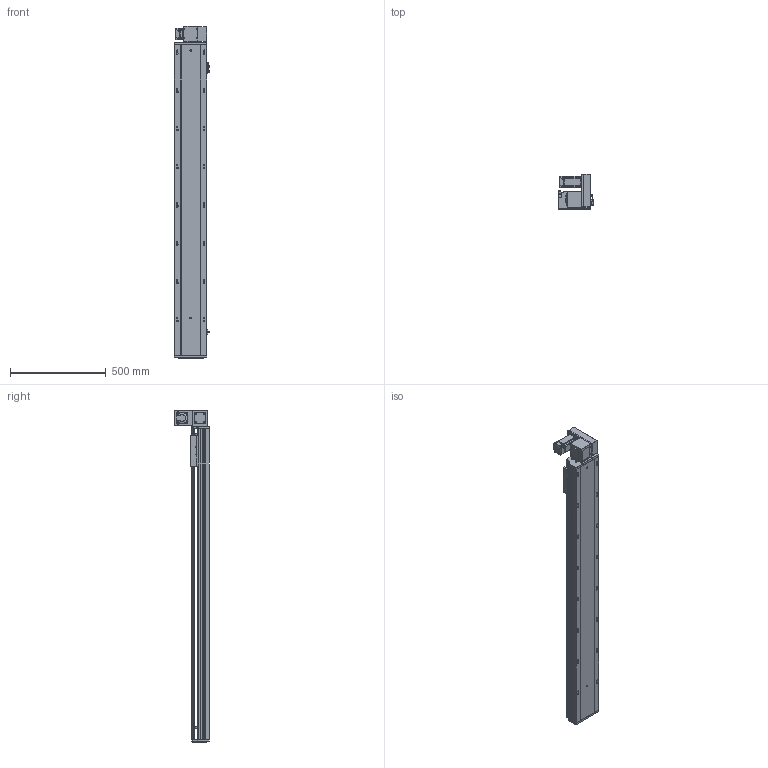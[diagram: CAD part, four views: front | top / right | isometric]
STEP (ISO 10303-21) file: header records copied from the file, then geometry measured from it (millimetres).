
FILE_DESCRIPTION (( 'STEP AP203' ), '1' );
FILE_NAME ('RY170-T-300-UR-P400W.SLDASM_1350.step', '2021-03-01T09:28:08', ( '盈信电脑' ), ( '东莞市道滘镇水果街19号' ), 'SwSTEP 2.0', 'SolidWorks 2012', '' );
FILE_SCHEMA (( 'CONFIG_CONTROL_DESIGN' ));
Length unit declared in the file: millimetre
Products named in the file (18): RY170肮祭湍臏賑輸; RY170綴裔啣; RY170-T-300肮祭謫倰第裔啣-DR_1350; RY170-T-300肮祭謫倰第菁釱-DR_1350; RY170肮祭謫ヶ裔啣; RY170翋肮祭謫釱; RY170外置感应片(200共用）; 覜茼ん672; RY170-T-300-UR-P400W.SLDASM_1350; 滅袉蝶18-10; RY170-T蹟翐M4; 15; RY120-T主同步轮轴承压盖; RY170-T肮祭謫裔啣; RY170-T肮祭湍揤踡輸2; RY170-T肮祭湍揤踡輸1; RY170同步轮电机安装板(400W); RY170肮祭謫萇儂欶
Assembly tree (22 placements, depth 2):
  RY170-T-300-UR-P400W.SLDASM_1350
    RY170-T-300肮祭謫倰第菁釱-DR_1350
    RY170肮祭湍臏賑輸
    RY170-T-300肮祭謫倰第裔啣-DR_1350
    RY170綴裔啣
    覜茼ん672  x3
    RY170外置感应片(200共用）
    RY170肮祭謫ヶ裔啣
    RY170翋肮祭謫釱
    RY170同步轮电机安装板(400W)
    RY170肮祭謫萇儂欶
    RY170-T肮祭湍揤踡輸1  x2
    RY170-T肮祭湍揤踡輸2  x2
    RY120-T主同步轮轴承压盖
    RY170-T肮祭謫裔啣
    RY170-T蹟翐M4
    滅袉蝶18-10  x2
    15
Bounding box: 183.7 x 182 x 1738 mm (x, y, z)
Volume: 8381801.4 mm3; surface area: 2860393 mm2
Topology: 22 solids, 22 shells, 2820 faces, 7822 edges, 5003 vertices
Faces by surface type: cylinder 1264, plane 1262, cone 264, bspline 30
Entity records: 83992 total; most frequent: CARTESIAN_POINT 18689, ORIENTED_EDGE 13296, DIRECTION 13120, EDGE_CURVE 6648, AXIS2_PLACEMENT_3D 4624, VERTEX_POINT 4359, VECTOR 3872, LINE 3872
